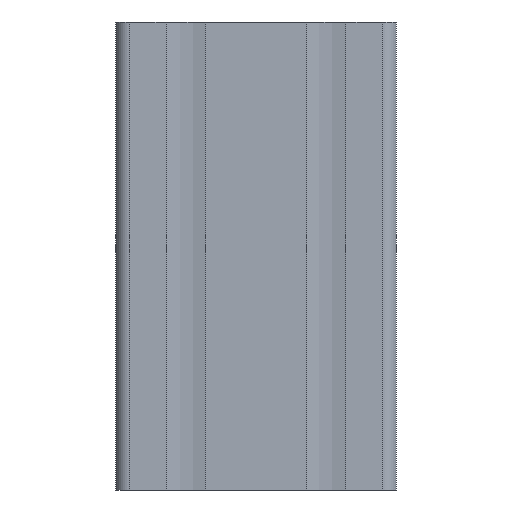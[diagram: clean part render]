
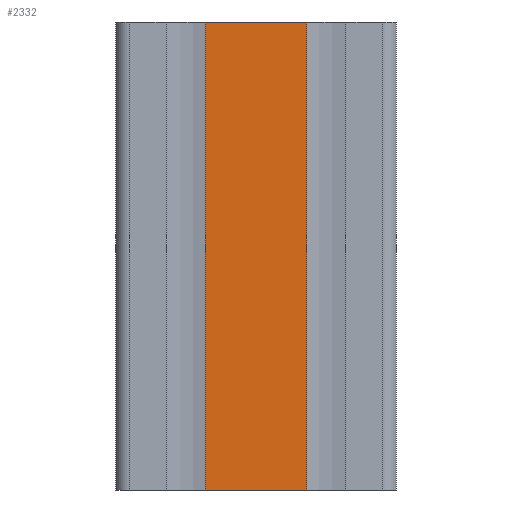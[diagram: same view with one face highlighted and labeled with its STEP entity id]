
A CAD part, left-side view. The second image highlights one B-rep face of the part: STEP entity #2332.
In plain terms, the highlighted planar face has unit normal (-1, 0, 0).
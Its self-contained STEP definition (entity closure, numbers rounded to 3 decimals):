
#27 = DIRECTION ( 'NONE',  ( 0., -1., 0. ) ) ;
#36 = AXIS2_PLACEMENT_3D ( 'NONE', #5477, #2858, #3794 ) ;
#460 = ORIENTED_EDGE ( 'NONE', *, *, #4129, .T. ) ;
#505 = EDGE_CURVE ( 'NONE', #4100, #2007, #813, .T. ) ;
#557 = CARTESIAN_POINT ( 'NONE',  ( -30., 10.8, 50. ) ) ;
#813 = LINE ( 'NONE', #2512, #1413 ) ;
#824 = PLANE ( 'NONE',  #36 ) ;
#1342 = VECTOR ( 'NONE', #27, 1000. ) ;
#1413 = VECTOR ( 'NONE', #1673, 1000. ) ;
#1673 = DIRECTION ( 'NONE',  ( 0., 0., -1. ) ) ;
#1758 = CARTESIAN_POINT ( 'NONE',  ( -30., -10.8, 50. ) ) ;
#2007 = VERTEX_POINT ( 'NONE', #2167 ) ;
#2167 = CARTESIAN_POINT ( 'NONE',  ( -30., 10.8, -50. ) ) ;
#2332 = ADVANCED_FACE ( 'NONE', ( #3277 ), #824, .F. ) ;
#2445 = LINE ( 'NONE', #4620, #5424 ) ;
#2512 = CARTESIAN_POINT ( 'NONE',  ( -30., 10.8, 50. ) ) ;
#2550 = DIRECTION ( 'NONE',  ( 0., -1., 0. ) ) ;
#2672 = LINE ( 'NONE', #557, #1342 ) ;
#2858 = DIRECTION ( 'NONE',  ( 1., 0., 0. ) ) ;
#2930 = VERTEX_POINT ( 'NONE', #1758 ) ;
#3098 = VECTOR ( 'NONE', #2550, 1000. ) ;
#3277 = FACE_OUTER_BOUND ( 'NONE', #3771, .T. ) ;
#3351 = EDGE_CURVE ( 'NONE', #4100, #2930, #2672, .T. ) ;
#3545 = ORIENTED_EDGE ( 'NONE', *, *, #3351, .F. ) ;
#3594 = EDGE_CURVE ( 'NONE', #2930, #4162, #2445, .T. ) ;
#3771 = EDGE_LOOP ( 'NONE', ( #460, #4692, #3545, #5398 ) ) ;
#3794 = DIRECTION ( 'NONE',  ( 0., 0., -1. ) ) ;
#4100 = VERTEX_POINT ( 'NONE', #5476 ) ;
#4129 = EDGE_CURVE ( 'NONE', #2007, #4162, #5057, .T. ) ;
#4162 = VERTEX_POINT ( 'NONE', #4669 ) ;
#4340 = CARTESIAN_POINT ( 'NONE',  ( -30., 10.8, -50. ) ) ;
#4620 = CARTESIAN_POINT ( 'NONE',  ( -30., -10.8, 50. ) ) ;
#4669 = CARTESIAN_POINT ( 'NONE',  ( -30., -10.8, -50. ) ) ;
#4692 = ORIENTED_EDGE ( 'NONE', *, *, #3594, .F. ) ;
#5057 = LINE ( 'NONE', #4340, #3098 ) ;
#5061 = DIRECTION ( 'NONE',  ( 0., 0., -1. ) ) ;
#5398 = ORIENTED_EDGE ( 'NONE', *, *, #505, .T. ) ;
#5424 = VECTOR ( 'NONE', #5061, 1000. ) ;
#5476 = CARTESIAN_POINT ( 'NONE',  ( -30., 10.8, 50. ) ) ;
#5477 = CARTESIAN_POINT ( 'NONE',  ( -30., 10.8, 50. ) ) ;
